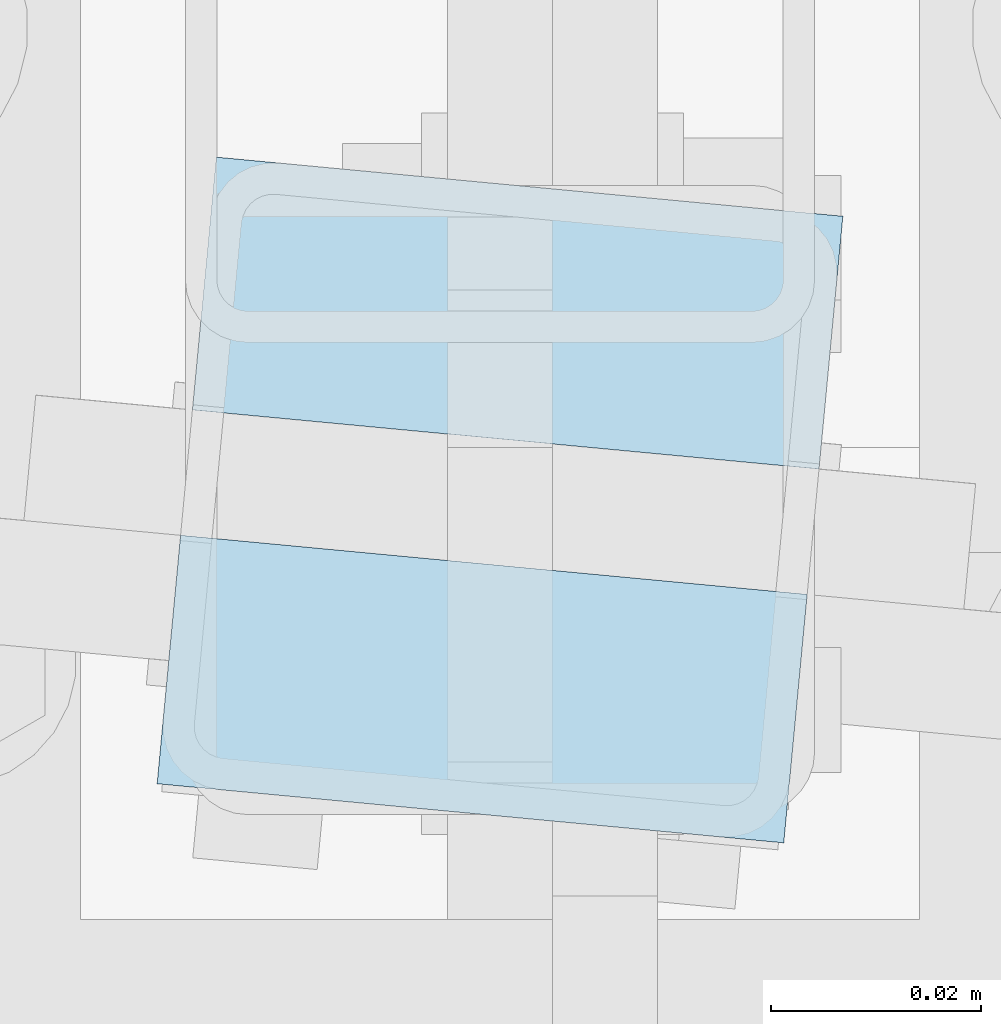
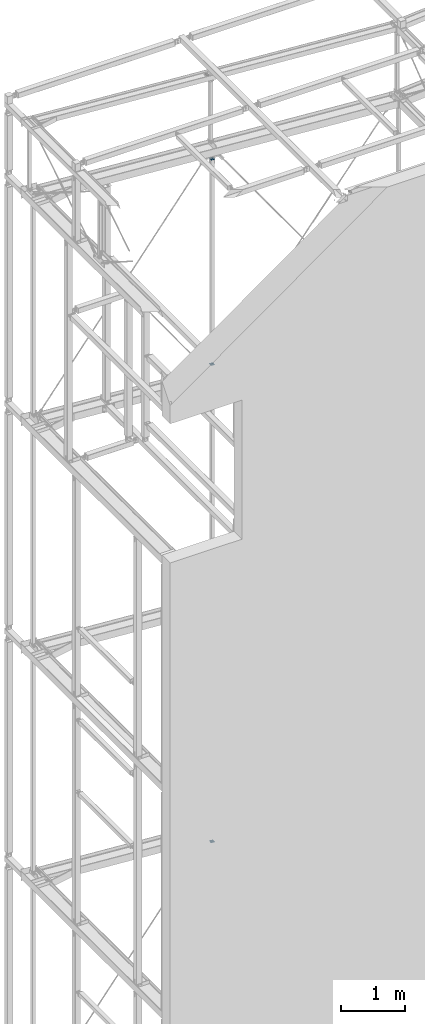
# One storey, part 207 of 271: 6 plates, 2 elements without a shape of their own.
"""IFC2X3 building model written with IfcOpenShell, lengths in millimetres."""

from ifc_helpers import new_model, si_unit, frame, origin_with_axes, place, context, subcontext, project, spatial, polyline, outline, extrude, material, type_object, element, aggregate, save


model = new_model("IFC2X3")

# Units and contexts
model_context = context("Model", 3, precision=1e-05, world=origin_with_axes())
body_context = subcontext(model_context, "Body", "Model", "MODEL_VIEW")
ifc_project = project(units=[si_unit("LENGTHUNIT", "METRE", prefix="MILLI"), si_unit("AREAUNIT", "SQUARE_METRE"), si_unit("VOLUMEUNIT", "CUBIC_METRE"), si_unit("MASSUNIT", "GRAM", prefix="KILO"), si_unit("TIMEUNIT", "SECOND"), si_unit("PLANEANGLEUNIT", "RADIAN"), si_unit("SOLIDANGLEUNIT", "STERADIAN"), si_unit("THERMODYNAMICTEMPERATUREUNIT", "DEGREE_CELSIUS"), si_unit("LUMINOUSINTENSITYUNIT", "LUMEN")], contexts=[model_context])

# Site, building, storey
site_placement = place(None, origin_with_axes())
site = spatial("IfcSite", under=ifc_project, at=site_placement, Name="Undefined", CompositionType="ELEMENT")
building_placement = place(site_placement, origin_with_axes())
building = spatial("IfcBuilding", under=site, at=building_placement, Name="Undefined", CompositionType="ELEMENT")
storey_placement = place(building_placement, origin_with_axes())
storey = spatial("IfcBuildingStorey", under=building, at=storey_placement, Name="Undefined", CompositionType="ELEMENT", Elevation=0.0)

# Assembly, plates
assembly_1_placement = place(storey_placement, origin_with_axes())
assembly_1 = element("IfcElementAssembly", 1, at=assembly_1_placement, inside=storey, AssemblyPlace="NOTDEFINED", PredefinedType="RIGID_FRAME")
ifc_material = material(Name="STEEL/S355JR")
plate_type = type_object("IfcPlateType", Name="BL4*24", PredefinedType="NOTDEFINED")
plate_1_placement = place(assembly_1_placement, frame((3201.06114263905, 4032.3750164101, 18434.0385406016), z_axis=(0.0, 0.0, -1.0), x_axis=(-0.0939225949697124, -0.995579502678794, 0.0)))
plate_1 = element("IfcPlate", 2, at=plate_1_placement, type_object=plate_type, material=ifc_material, Name="BLACHA", ObjectType="BL4*24", context=body_context, shape_type="SweptSolid", body=[
    extrude(outline(polyline([(0.0, 0.0), (24.2147998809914, 1.36424205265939e-12), (24.2147998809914, 60.0007209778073), (9.09494701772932e-13, 60.0007209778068), (0.0, 0.0)])), frame((0.0, 0.0, -2.0), z_axis=(0.0, 0.0, 1.0), x_axis=(1.0, 0.0, 0.0)), (0.0, 0.0, 1.0), 4.0),
])
plate_2_placement = place(assembly_1_placement, frame((3197.6597547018, 3996.32030442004, 18434.0385406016), z_axis=(0.0, 0.0, -1.0), x_axis=(-0.0939225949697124, -0.995579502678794, 0.0)))
plate_2 = element("IfcPlate", 3, at=plate_2_placement, type_object=plate_type, material=ifc_material, Name="BLACHA", ObjectType="BL4*24", context=body_context, shape_type="SweptSolid", body=[
    extrude(outline(polyline([(0.0, 0.0), (23.7859210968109, 9.09494701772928e-13), (23.7859210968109, 60.0007209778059), (9.09494701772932e-13, 60.0007209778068), (0.0, 0.0)])), frame((0.0, 0.0, -2.0), z_axis=(0.0, 0.0, 1.0), x_axis=(1.0, 0.0, 0.0)), (0.0, 0.0, 1.0), 4.0),
])
plate_3_placement = place(assembly_1_placement, frame((3141.32565493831, 4038.01043980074, 14534.6626188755), z_axis=(0.0, 0.0, 1.0), x_axis=(-0.0939225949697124, -0.995579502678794, 0.0)))
plate_3 = element("IfcPlate", 4, at=plate_3_placement, type_object=plate_type, material=ifc_material, Name="BLACHA", ObjectType="BL4*24", context=body_context, shape_type="SweptSolid", body=[
    extrude(outline(polyline([(0.0, 0.0), (24.1996459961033, 3.63797880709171e-12), (24.1996459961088, 60.0007209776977), (9.09494701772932e-13, 60.0007209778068), (0.0, 0.0)])), frame((0.0, 0.0, -2.0), z_axis=(0.0, 0.0, 1.0), x_axis=(1.0, 0.0, 0.0)), (0.0, 0.0, 1.0), 4.0),
])
plate_4_placement = place(assembly_1_placement, frame((3137.92569029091, 4001.97081468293, 14534.6626188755), z_axis=(0.0, 0.0, 1.0), x_axis=(-0.0939225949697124, -0.995579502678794, 0.0)))
plate_4 = element("IfcPlate", 5, at=plate_4_placement, type_object=plate_type, material=ifc_material, Name="BLACHA", ObjectType="BL4*24", context=body_context, shape_type="SweptSolid", body=[
    extrude(outline(polyline([(0.0, 0.0), (23.8010749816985, 5.45696821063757e-12), (23.8010749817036, 60.0007209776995), (9.09494701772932e-13, 60.0007209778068), (0.0, 0.0)])), frame((0.0, 0.0, -2.0), z_axis=(0.0, 0.0, 1.0), x_axis=(1.0, 0.0, 0.0)), (0.0, 0.0, 1.0), 4.0),
])
aggregate(assembly_1, [plate_1, plate_2, plate_3, plate_4])

assembly_2_placement = place(storey_placement, origin_with_axes())
assembly_2 = element("IfcElementAssembly", 6, at=assembly_2_placement, inside=storey, AssemblyPlace="NOTDEFINED", PredefinedType="RIGID_FRAME")
plate_5_placement = place(assembly_2_placement, frame((3201.06114263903, 4032.3750164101, 5474.03851008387), z_axis=(0.0, 0.0, -1.0), x_axis=(-0.0939225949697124, -0.995579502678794, 0.0)))
plate_5 = element("IfcPlate", 7, at=plate_5_placement, type_object=plate_type, material=ifc_material, Name="BLACHA", ObjectType="BL4*24", context=body_context, shape_type="SweptSolid", body=[
    extrude(outline(polyline([(0.0, 0.0), (24.2147998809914, 1.36424205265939e-12), (24.2147998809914, 60.0007209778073), (9.09494701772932e-13, 60.0007209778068), (0.0, 0.0)])), frame((0.0, 0.0, -2.0), z_axis=(0.0, 0.0, 1.0), x_axis=(1.0, 0.0, 0.0)), (0.0, 0.0, 1.0), 4.0),
])
plate_6_placement = place(assembly_2_placement, frame((3197.65975470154, 3996.32030441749, 5474.03851008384), z_axis=(0.0, 0.0, -1.0), x_axis=(-0.0939225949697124, -0.995579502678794, 0.0)))
plate_6 = element("IfcPlate", 8, at=plate_6_placement, type_object=plate_type, material=ifc_material, Name="BLACHA", ObjectType="BL4*24", context=body_context, shape_type="SweptSolid", body=[
    extrude(outline(polyline([(0.0, 0.0), (23.7859210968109, 9.09494701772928e-13), (23.7859210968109, 60.0007209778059), (9.09494701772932e-13, 60.0007209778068), (0.0, 0.0)])), frame((0.0, 0.0, -2.0), z_axis=(0.0, 0.0, 1.0), x_axis=(1.0, 0.0, 0.0)), (0.0, 0.0, 1.0), 4.0),
])
aggregate(assembly_2, [plate_5, plate_6])

save(model, "model.ifc")
